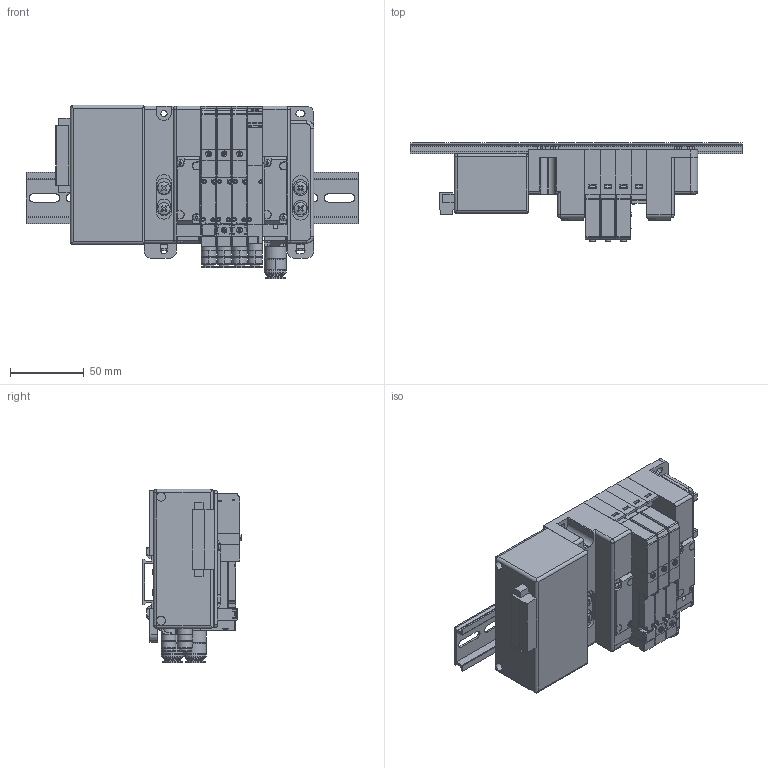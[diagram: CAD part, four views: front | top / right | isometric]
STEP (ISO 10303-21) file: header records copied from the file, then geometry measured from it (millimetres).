
FILE_DESCRIPTION( (''), '2;1');
FILE_NAME ('CVICAD02.9768.F10M4XSJ-JR-B1-DN_10880.stp','2020-08-31T10:44:09',(''),(''),'spGate 12.6.6','','');
FILE_SCHEMA (('AUTOMOTIVE_DESIGN'));
Length unit declared in the file: millimetre
Products named in the file (18): Assembly; F10-PP; F10ZX_ValveBaseAssy; F10_Port-PJ; F10XBPP; F10_Adptor; F_3PortBody; F10_Cap; F_Connector-L; F10T_Body; F10_SwitchBlock; F10_A1; F10_VJ; F10ZX-LK-DN; F10ZX-RN-DN; F10_SwitchBlock1; DIN-RAIL225; YS6Bx
Assembly tree (38 placements, depth 2):
  Assembly
    F10-PP  x3
    F10ZX_ValveBaseAssy  x4
    F10_Port-PJ
    F10XBPP
    F10_Adptor  x3
    F_3PortBody  x3
    F10_Cap  x3
    F_Connector-L  x3
    F10T_Body  x3
    F10_SwitchBlock  x2
    F10_A1  x3
    F10_VJ  x4
    F10ZX-LK-DN
    F10ZX-RN-DN
    F10_SwitchBlock1
    DIN-RAIL225
    YS6Bx
Bounding box: 225 x 67 x 117.7 mm (x, y, z)
Volume: 553146.5 mm3; surface area: 180397.2 mm2
Topology: 37 solids, 38 shells, 3616 faces, 9721 edges, 6749 vertices
Faces by surface type: plane 2379, cylinder 907, bspline 310, sphere 20
Entity records: 94275 total; most frequent: CARTESIAN_POINT 12762, ORIENTED_EDGE 9471, DIRECTION 8528, COLOUR_RGB 6521, PRESENTATION_STYLE_ASSIGNMENT 6521, STYLED_ITEM 6521, EDGE_CURVE 4737, DRAUGHTING_PRE_DEFINED_CURVE_FONT 4737
